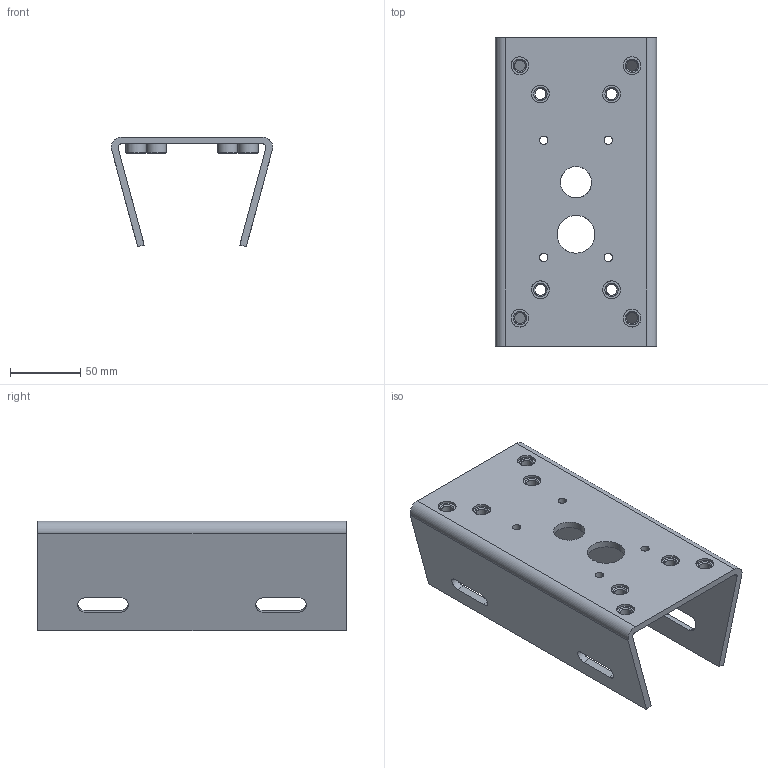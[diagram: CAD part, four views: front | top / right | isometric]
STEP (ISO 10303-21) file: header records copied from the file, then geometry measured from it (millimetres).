
FILE_DESCRIPTION (( 'STEP AP203' ), '1' );
FILE_NAME ('320A187, Panasonic PAPM4, Mount adaptor.STEP', '2021-09-21T15:22:09', ( '' ), ( '' ), 'SwSTEP 2.0', 'SolidWorks 2021', '' );
FILE_SCHEMA (( 'CONFIG_CONTROL_DESIGN' ));
Length unit declared in the file: millimetre
Products named in the file (1): 320A187, Panasonic PAPM4, Mount adaptor
Bounding box: 115.02 x 219.96 x 78.22 mm (x, y, z)
Volume: 265616.9 mm3; surface area: 122226.4 mm2
Topology: 1 solids, 1 shells, 194 faces, 442 edges, 274 vertices
Faces by surface type: cylinder 88, cone 64, plane 42
Entity records: 10151 total; most frequent: CARTESIAN_POINT 6547, ORIENTED_EDGE 884, B_SPLINE_CURVE_WITH_KNOTS 442, EDGE_CURVE 442, DIRECTION 390, VERTEX_POINT 274, EDGE_LOOP 254, AXIS2_PLACEMENT_3D 195
